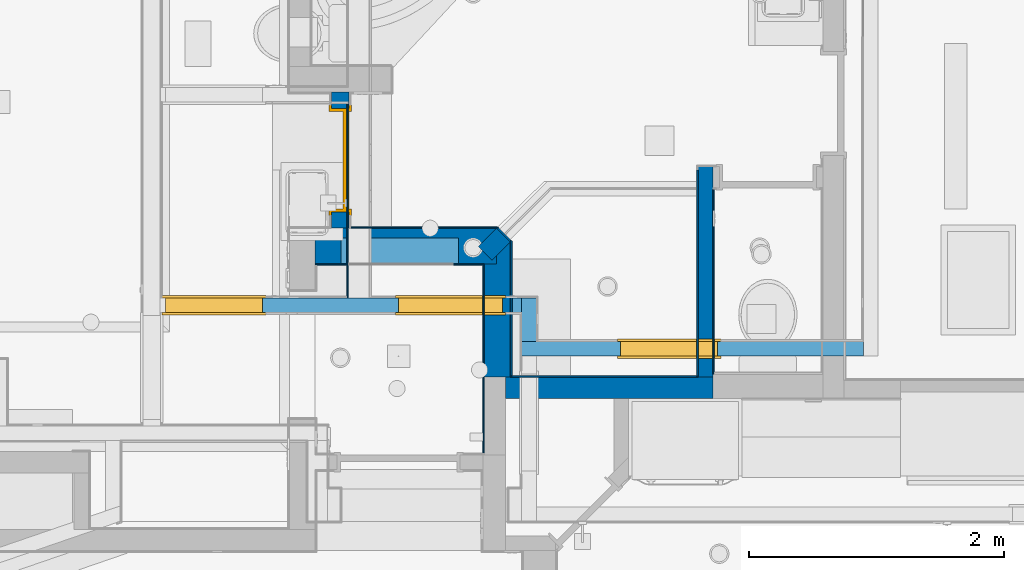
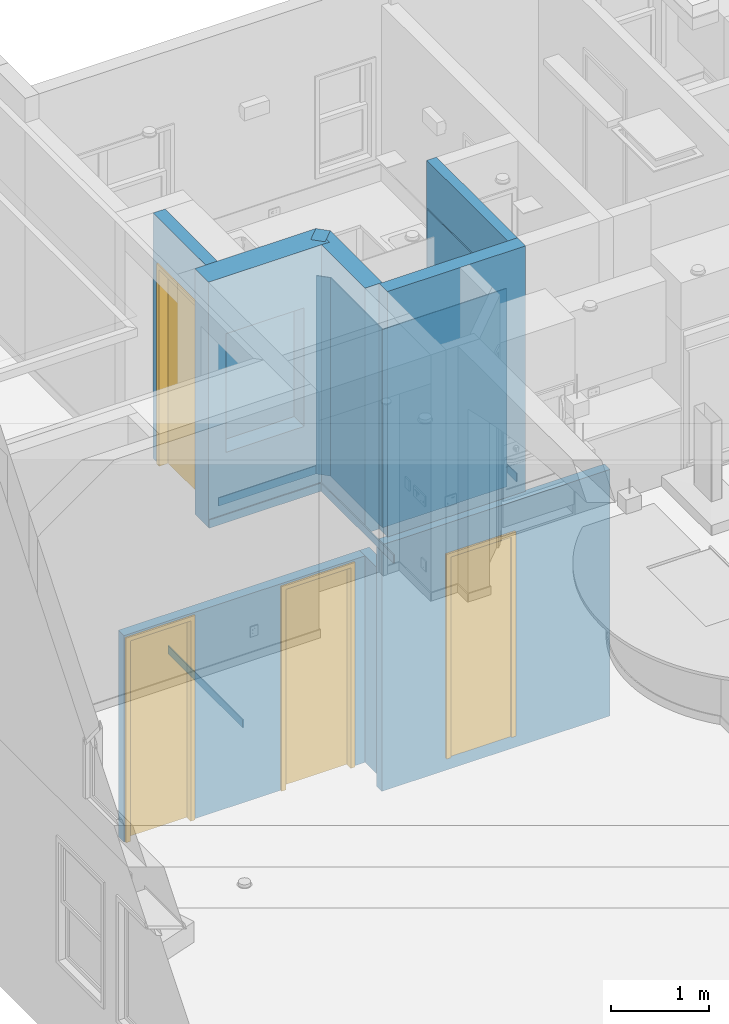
# One storey, part 8 of 60: 18 walls, 4 doors, 5 openings.
"""IFC2X3 building model written with IfcOpenShell, lengths in feet."""

from ifc_helpers import new_model, entity, si_unit, converted_unit, direction, frame, frame_2d, origin, origin_2d_with_axis, place, context, subcontext, project, spatial, polyline, rectangle, outline, extrude, clip, bounded_halfspace, source, transform, mapped, material, layer, layer_set, layer_usage, type_object, type_shapes, element, fill, save


model = new_model("IFC2X3")

# Units and contexts
model_context = context("Model", 3, precision=0.0001, world=origin(), true_north=direction((6.123031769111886e-17, 1.0)))
plan_context = context("Plan", 3, precision=0.0001, world=origin(), true_north=direction((6.123031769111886e-17, 1.0)))
body_context = subcontext(model_context, "Body", "Model", "MODEL_VIEW")
ifc_project = project(units=[converted_unit("LENGTHUNIT", "FOOT", entity("IfcLengthMeasure", 0.3048), si_unit("LENGTHUNIT", "METRE"), dimensions=[1, 0, 0, 0, 0, 0, 0]), converted_unit("AREAUNIT", "SQUARE FOOT", entity("IfcAreaMeasure", 0.09290304), si_unit("AREAUNIT", "SQUARE_METRE"), dimensions=[2, 0, 0, 0, 0, 0, 0]), converted_unit("PLANEANGLEUNIT", "DEGREE", entity("IfcPlaneAngleMeasure", 0.017453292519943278), si_unit("PLANEANGLEUNIT", "RADIAN"), dimensions=[0, 0, 0, 0, 0, 0, 0])], contexts=[model_context, plan_context])

# Site, building, storey
site_placement = place(None, origin())
site = spatial("IfcSite", under=ifc_project, at=site_placement, Name="Default", CompositionType="ELEMENT")
building_placement = place(site_placement, origin())
building = spatial("IfcBuilding", under=site, at=building_placement, CompositionType="ELEMENT")
storey_placement = place(building_placement, origin())
storey = spatial("IfcBuildingStorey", under=building, at=storey_placement, Name="First floor", CompositionType="ELEMENT", Elevation=0.0)

# Walls
ifc_material = material(Name="Default New Material")
ifc_layer_1 = layer(ifc_material, 0.5416666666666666)
ifc_layer_set_1 = layer_set([ifc_layer_1], Name="Basic Wall:Wall_6.5\"")
ifc_layer_usage_1 = layer_usage(ifc_layer_set_1, "AXIS2", "NEGATIVE", 0.2708333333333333)
wall_type_1 = type_object("IfcWallType", Name="Basic Wall:Wall_6.5\"", PredefinedType="STANDARD", material=ifc_layer_set_1)
wall_1_placement = place(storey_placement, frame((-0.7499999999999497, 33.22916666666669, 10.666666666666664)))
element("IfcWallStandardCase", 1, at=wall_1_placement, inside=storey, type_object=wall_type_1, material=ifc_layer_usage_1, Name="Basic Wall:Wall_6.5\"", ObjectType="Basic Wall:Wall_6.5\"", context=body_context, shape_type="SweptSolid", body=[
    extrude(rectangle(XDim=5.333333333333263, YDim=0.5416666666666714, at=frame_2d((2.6666666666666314, -5.273559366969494e-16), x_axis=(-1.0, 0.0))), origin(), (0.0, 0.0, 1.0), 10.0),
])
ifc_layer_2 = layer(ifc_material, 0.6666666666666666)
ifc_layer_set_2 = layer_set([ifc_layer_2], Name="Basic Wall:Wall_8\"")
ifc_layer_usage_2 = layer_usage(ifc_layer_set_2, "AXIS2", "POSITIVE", -0.33333333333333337)
wall_type_2 = type_object("IfcWallType", Name="Basic Wall:Wall_8\"", PredefinedType="STANDARD", material=ifc_layer_set_2)
wall_2_placement = place(storey_placement, frame((-1.2148689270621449, 37.09763107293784, 10.666666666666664), z_axis=(0.0, 0.0, 1.0), x_axis=(0.7071067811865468, -0.7071067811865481, 0.0)))
element("IfcWallStandardCase", 2, at=wall_2_placement, inside=storey, type_object=wall_type_2, material=ifc_layer_usage_2, Name="Basic Wall:Wall_8\"", ObjectType="Basic Wall:Wall_8\"", context=body_context, shape_type="SweptSolid", body=[
    extrude(rectangle(XDim=0.5008673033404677, YDim=0.666666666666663, at=frame_2d((0.25043365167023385, 2.498001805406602e-16), x_axis=(-1.0, 0.0))), origin(), (0.0, 0.0, 1.0), 10.0),
])
ifc_layer_usage_3 = layer_usage(ifc_layer_set_2, "AXIS2", "POSITIVE", -0.33333333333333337)
wall_3_placement = place(storey_placement, frame((-0.9583333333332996, 36.979166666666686, 10.666666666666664), z_axis=(0.0, 0.0, 1.0), x_axis=(0.0, -1.0, 0.0)))
element("IfcWallStandardCase", 3, at=wall_3_placement, inside=storey, type_object=wall_type_2, material=ifc_layer_usage_3, Name="Basic Wall:Wall_8\"", ObjectType="Basic Wall:Wall_8\"", context=body_context, shape_type="Clipping", body=[
    clip(clip(clip(extrude(rectangle(XDim=3.479166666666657, YDim=0.6666666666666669, at=frame_2d((1.7395833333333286, 0.0), x_axis=(-1.0, 0.0))), origin(), (0.0, 0.0, 1.0), 10.0), bounded_halfspace(frame((0.0, 0.33333333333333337, 10.0), z_axis=(0.7071067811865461, 0.707106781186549, 0.0), x_axis=(-0.707106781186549, 0.7071067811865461, 0.0)), True, frame((0.0, 0.33333333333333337, 10.0), z_axis=(0.7071067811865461, 0.707106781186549, 0.0), x_axis=(-0.707106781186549, 0.7071067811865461, 0.0)), polyline([(0.0, 0.0), (-0.5008673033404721, 0.0), (-0.5008673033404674, -10.0), (0.0, -10.0), (0.0, 0.0)]))), bounded_halfspace(frame((0.5625, -0.02083333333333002, 10.0), z_axis=(1.0, 0.0, 0.0), x_axis=(0.0, 1.0, 0.0)), True, frame((0.5625, -0.02083333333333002, 10.0), z_axis=(1.0, 0.0, 0.0), x_axis=(0.0, 1.0, 0.0)), polyline([(0.0, 0.0), (-0.31250000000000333, 0.0), (-0.31250000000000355, -10.0), (0.0, -10.0), (0.0, 0.0)]))), bounded_halfspace(frame((0.5625, -0.02083333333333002, 0.0), z_axis=(0.0, 1.0, 0.0), x_axis=(-1.0, 0.0, 0.0)), True, frame((0.5625, -0.02083333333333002, 0.0), z_axis=(0.0, 1.0, 0.0), x_axis=(-1.0, 0.0, 0.0)), polyline([(0.0, 0.0), (0.2083333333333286, 0.0), (0.2083333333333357, 10.0), (0.0, 10.0), (0.0, 0.0)]))),
])
ifc_layer_3 = layer(ifc_material, 0.375)
ifc_layer_set_3 = layer_set([ifc_layer_3], Name="Basic Wall:Wall_4.5\"")
ifc_layer_usage_4 = layer_usage(ifc_layer_set_3, "AXIS2", "POSITIVE", -0.1875)
wall_type_3 = type_object("IfcWallType", Name="Basic Wall:Wall_4.5\"", PredefinedType="STANDARD", material=ifc_layer_set_3)
wall_4_placement = place(storey_placement, frame((4.395833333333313, 33.50000000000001, 10.666666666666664), z_axis=(0.0, 0.0, 1.0), x_axis=(0.0, 1.0, 0.0)))
element("IfcWallStandardCase", 4, at=wall_4_placement, inside=storey, type_object=wall_type_3, material=ifc_layer_usage_4, Name="Basic Wall:Wall_4.5\"", ObjectType="Basic Wall:Wall_4.5\"", context=body_context, shape_type="SweptSolid", body=[
    extrude(rectangle(XDim=5.416321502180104, YDim=0.375, at=frame_2d((2.708160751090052, 0.0), x_axis=(-1.0, 0.0))), origin(), (0.0, 0.0, 1.0), 10.0),
])

# Wall, opening, door
ifc_layer_usage_5 = layer_usage(ifc_layer_set_3, "AXIS2", "NEGATIVE", 0.1875)
wall_5_placement = place(storey_placement, frame((8.458333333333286, 34.22916666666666, -0.5), z_axis=(0.0, 0.0, 1.0), x_axis=(-1.0, 0.0, 0.0)))
wall_5 = element("IfcWallStandardCase", 5, at=wall_5_placement, inside=storey, type_object=wall_type_3, material=ifc_layer_usage_5, Name="Basic Wall:Wall_4.5\"", ObjectType="Basic Wall:Wall_4.5\"", context=body_context, shape_type="SweptSolid", body=[
    extrude(rectangle(XDim=8.791666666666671, YDim=0.375, at=frame_2d((4.395833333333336, 0.0), x_axis=(-1.0, 0.0))), origin(), (0.0, 0.0, 1.0), 10.041666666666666),
])
opening_1_placement = place(wall_5_placement, frame((3.749999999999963, -0.1875000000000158, 0.5)))
opening_1 = element("IfcOpeningElement", 6, at=opening_1_placement, cuts=wall_5, Name="C_Single Door:2'-4\" X 8'-2\":1", ObjectType="Opening", context=body_context, shape_type="SweptSolid", body=[
    extrude(rectangle(XDim=2.4999999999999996, YDim=8.25, at=frame_2d((4.125, 1.25), x_axis=(0.0, -1.0))), frame((0.0, 0.0, 0.0), z_axis=(0.0, 1.0, 0.0), x_axis=(0.0, 0.0, 1.0)), (0.0, 0.0, 1.0), 0.375),
])
door_style_1 = type_object("IfcDoorStyle", Name="C_Single Door:2'-4\" X 8'-2\"", ConstructionType="NOTDEFINED", OperationType="SINGLE_SWING_LEFT", ParameterTakesPrecedence=False, Sizeable=False, material=ifc_material)
shared_shape_1 = source(origin(), body_context, "Body", "SweptSolid", [
    extrude(rectangle(XDim=0.16666666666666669, YDim=2.333333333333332, at=origin_2d_with_axis()), frame((1.2499999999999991, 0.08333333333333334, 0.0), z_axis=(0.0, 0.0, 1.0), x_axis=(0.0, 1.0, 0.0)), (0.0, 0.0, 1.0), 8.166666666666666),
    extrude(outline(polyline([(-4.041666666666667, 1.1666666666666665), (4.125000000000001, 1.1666666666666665), (4.125000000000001, 1.3333333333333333), (-4.208333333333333, 1.3333333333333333), (-4.208333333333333, -1.3333333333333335), (4.124999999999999, -1.3333333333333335), (4.124999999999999, -1.1666666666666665), (-4.041666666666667, -1.1666666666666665), (-4.041666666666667, 1.1666666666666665)])), frame((1.2499999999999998, -0.0625, 4.124999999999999), z_axis=(0.0, 1.0, 0.0), x_axis=(0.0, 0.0, -1.0)), (0.0, 0.0, 1.0), 0.0625),
    extrude(outline(polyline([(-4.041666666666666, 1.1666666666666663), (4.125, 1.1666666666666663), (4.125, 1.3333333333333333), (-4.208333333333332, 1.3333333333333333), (-4.208333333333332, -1.3333333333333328), (4.125, -1.3333333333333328), (4.125, -1.1666666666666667), (-4.041666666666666, -1.1666666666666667), (-4.041666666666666, 1.1666666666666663)])), frame((1.2499999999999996, 0.375, 4.125), z_axis=(0.0, 1.0, 0.0), x_axis=(0.0, 0.0, -1.0)), (0.0, 0.0, 1.0), 0.0625),
    extrude(outline(polyline([(-4.104166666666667, -1.249999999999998), (4.145833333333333, -1.249999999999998), (4.145833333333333, 1.249999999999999), (-4.104166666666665, 1.2499999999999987), (-4.104166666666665, 1.1666666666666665), (4.062500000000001, 1.1666666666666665), (4.062500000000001, -1.1666666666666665), (-4.104166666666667, -1.1666666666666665), (-4.104166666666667, -1.249999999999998)])), frame((1.2499999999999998, 0.0, 4.104166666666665), z_axis=(0.0, 1.0, 0.0), x_axis=(0.0, 0.0, 1.0)), (0.0, 0.0, 1.0), 0.375),
])
type_shapes(door_style_1, [shared_shape_1])
door_1_placement = place(opening_1_placement, frame((2.5000000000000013, 0.3749999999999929, 0.0), z_axis=(0.0, 0.0, 1.0), x_axis=(-1.0, 0.0, 0.0)))
door_1 = element("IfcDoor", 7, at=door_1_placement, inside=storey, type_object=door_style_1, material=ifc_material, Name="C_Single Door:2'-4\" X 8'-2\"", ObjectType="C_Single Door:2'-4\" X 8'-2\"", OverallHeight=8.25, OverallWidth=2.5000000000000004, context=body_context, shape_type="MappedRepresentation", body=[
    mapped(shared_shape_1, transform((0.0, 0.0, 0.0), scale=1.0)),
])
fill(opening_1, door_1)

# Wall
ifc_layer_usage_6 = layer_usage(ifc_layer_set_3, "AXIS2", "NEGATIVE", 0.1875)
wall_6_placement = place(storey_placement, frame((-0.14583333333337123, 34.416666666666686, 0.0), z_axis=(0.0, 0.0, 1.0), x_axis=(0.0, 1.0, 0.0)))
element("IfcWallStandardCase", 8, at=wall_6_placement, inside=storey, type_object=wall_type_3, material=ifc_layer_usage_6, Name="Basic Wall:Wall_4.5\"", ObjectType="Basic Wall:Wall_4.5\"", context=body_context, shape_type="SweptSolid", body=[
    extrude(rectangle(XDim=1.1249999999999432, YDim=0.375, at=frame_2d((0.5624999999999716, 0.0), x_axis=(-1.0, 0.0))), origin(), (0.0, 0.0, 1.0), 8.416666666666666),
])

# Wall, openings, doors
ifc_layer_usage_7 = layer_usage(ifc_layer_set_3, "AXIS2", "NEGATIVE", 0.1875)
wall_7_placement = place(storey_placement, frame((-0.3333333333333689, 35.35416666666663, 0.0), z_axis=(0.0, 0.0, 1.0), x_axis=(-1.0, 0.0, 0.0)))
wall_7 = element("IfcWallStandardCase", 9, at=wall_7_placement, inside=storey, type_object=wall_type_3, material=ifc_layer_usage_7, Name="Basic Wall:Wall_4.5\"", ObjectType="Basic Wall:Wall_4.5\"", context=body_context, shape_type="SweptSolid", body=[
    extrude(rectangle(XDim=9.291666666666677, YDim=0.375, at=frame_2d((4.64583333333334, -5.551115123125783e-16), x_axis=(1.0, 0.0))), origin(), (0.0, 0.0, 1.0), 8.416666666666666),
])
opening_2_placement = place(wall_7_placement, frame((3.1666666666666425, 0.18749999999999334, 0.0)))
opening_2 = element("IfcOpeningElement", 10, at=opening_2_placement, cuts=wall_7, Name="C_Single Door:2'-6\" X 8'-2\":1", ObjectType="Opening", context=body_context, shape_type="SweptSolid", body=[
    extrude(rectangle(XDim=2.666666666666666, YDim=8.25, at=frame_2d((4.125, 1.333333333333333), x_axis=(0.0, 1.0))), frame((0.0, 0.0, 0.0), z_axis=(0.0, -1.0, 0.0), x_axis=(0.0, 0.0, 1.0)), (0.0, 0.0, 1.0), 0.375),
])
opening_3_placement = place(wall_7_placement, frame((9.16666666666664, 0.18749999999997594, 0.0)))
opening_3 = element("IfcOpeningElement", 11, at=opening_3_placement, cuts=wall_7, Name="C_Single Door:2'-4\" X 8'-2\":1", ObjectType="Opening", context=body_context, shape_type="SweptSolid", body=[
    extrude(rectangle(XDim=2.4999999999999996, YDim=8.25, at=frame_2d((4.125, 1.2499999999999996), x_axis=(0.0, 1.0))), frame((0.0, 0.0, 0.0), z_axis=(0.0, -1.0, 0.0), x_axis=(0.0, 0.0, 1.0)), (0.0, 0.0, 1.0), 0.375),
])
door_style_2 = type_object("IfcDoorStyle", Name="C_Single Door:2'-4\" X 8'-2\"", ConstructionType="NOTDEFINED", OperationType="SINGLE_SWING_RIGHT", ParameterTakesPrecedence=False, Sizeable=False, material=ifc_material)
shared_shape_2 = source(origin(), body_context, "Body", "SweptSolid", [
    extrude(rectangle(XDim=2.333333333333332, YDim=0.16666666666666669, at=origin_2d_with_axis()), frame((1.2500000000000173, 0.08333333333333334, 0.0)), (0.0, 0.0, 1.0), 8.166666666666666),
    extrude(outline(polyline([(-4.041666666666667, 1.1666666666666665), (4.125000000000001, 1.1666666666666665), (4.125000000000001, 1.3333333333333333), (-4.208333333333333, 1.3333333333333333), (-4.208333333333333, -1.3333333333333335), (4.124999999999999, -1.3333333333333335), (4.124999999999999, -1.1666666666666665), (-4.041666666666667, -1.1666666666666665), (-4.041666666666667, 1.1666666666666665)])), frame((1.2500000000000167, 0.0, 4.124999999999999), z_axis=(0.0, -1.0, 0.0), x_axis=(0.0, 0.0, -1.0)), (0.0, 0.0, 1.0), 0.0625),
    extrude(outline(polyline([(-4.041666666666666, 1.1666666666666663), (4.125, 1.1666666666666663), (4.125, 1.3333333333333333), (-4.208333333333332, 1.3333333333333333), (-4.208333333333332, -1.3333333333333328), (4.125, -1.3333333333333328), (4.125, -1.1666666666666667), (-4.041666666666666, -1.1666666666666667), (-4.041666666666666, 1.1666666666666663)])), frame((1.2500000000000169, 0.4375, 4.125), z_axis=(0.0, -1.0, 0.0), x_axis=(0.0, 0.0, -1.0)), (0.0, 0.0, 1.0), 0.0625),
    extrude(outline(polyline([(1.1666666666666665, -4.104166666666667), (1.249999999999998, -4.104166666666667), (1.2499999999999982, 4.145833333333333), (-1.2499999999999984, 4.145833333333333), (-1.2499999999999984, -4.104166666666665), (-1.1666666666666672, -4.104166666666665), (-1.1666666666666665, 4.062500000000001), (1.1666666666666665, 4.062500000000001), (1.1666666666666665, -4.104166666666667)])), frame((1.2500000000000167, 0.375, 4.104166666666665), z_axis=(0.0, -1.0, 0.0), x_axis=(1.0, 0.0, 0.0)), (0.0, 0.0, 1.0), 0.375),
])
type_shapes(door_style_2, [shared_shape_2])
door_2_placement = place(opening_3_placement, frame((-2.500000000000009, -0.3749999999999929, 0.0)))
door_2 = element("IfcDoor", 12, at=door_2_placement, inside=storey, type_object=door_style_2, material=ifc_material, Name="C_Single Door:2'-4\" X 8'-2\"", ObjectType="C_Single Door:2'-4\" X 8'-2\"", OverallHeight=8.25, OverallWidth=2.500000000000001, context=body_context, shape_type="MappedRepresentation", body=[
    mapped(shared_shape_2, transform((0.0, 0.0, 0.0), scale=1.0)),
])
fill(opening_3, door_2)
door_style_3 = type_object("IfcDoorStyle", Name="C_Single Door:2'-6\" X 8'-2\"", ConstructionType="NOTDEFINED", OperationType="SINGLE_SWING_RIGHT", ParameterTakesPrecedence=False, Sizeable=False, material=ifc_material)
shared_shape_3 = source(origin(), body_context, "Body", "SweptSolid", [
    extrude(rectangle(XDim=2.499999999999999, YDim=0.16666666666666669, at=origin_2d_with_axis()), frame((1.3333333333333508, 0.08333333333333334, 0.0)), (0.0, 0.0, 1.0), 8.166666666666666),
    extrude(outline(polyline([(-4.041666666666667, 1.2499999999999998), (4.125000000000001, 1.2499999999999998), (4.125000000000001, 1.4166666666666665), (-4.208333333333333, 1.4166666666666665), (-4.208333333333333, -1.4166666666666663), (4.124999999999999, -1.4166666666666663), (4.124999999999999, -1.2499999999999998), (-4.041666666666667, -1.2499999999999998), (-4.041666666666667, 1.2499999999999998)])), frame((1.33333333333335, 0.0, 4.124999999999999), z_axis=(0.0, -1.0, 0.0), x_axis=(0.0, 0.0, -1.0)), (0.0, 0.0, 1.0), 0.0625),
    extrude(outline(polyline([(-4.041666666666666, 1.2499999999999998), (4.125, 1.2499999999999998), (4.125, 1.4166666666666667), (-4.208333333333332, 1.4166666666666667), (-4.208333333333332, -1.4166666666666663), (4.125, -1.4166666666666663), (4.125, -1.2500000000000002), (-4.041666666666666, -1.2500000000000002), (-4.041666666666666, 1.2499999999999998)])), frame((1.3333333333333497, 0.4375, 4.125), z_axis=(0.0, -1.0, 0.0), x_axis=(0.0, 0.0, -1.0)), (0.0, 0.0, 1.0), 0.0625),
    extrude(outline(polyline([(1.2499999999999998, -4.104166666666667), (1.3333333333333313, -4.104166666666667), (1.3333333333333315, 4.145833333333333), (-1.3333333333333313, 4.145833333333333), (-1.3333333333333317, -4.104166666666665), (-1.25, -4.104166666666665), (-1.2499999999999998, 4.062500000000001), (1.2499999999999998, 4.062500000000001), (1.2499999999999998, -4.104166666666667)])), frame((1.33333333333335, 0.375, 4.104166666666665), z_axis=(0.0, -1.0, 0.0), x_axis=(1.0, 0.0, 0.0)), (0.0, 0.0, 1.0), 0.375),
])
type_shapes(door_style_3, [shared_shape_3])
door_3_placement = place(opening_2_placement, frame((-2.666666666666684, -0.3749999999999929, 0.0)))
door_3 = element("IfcDoor", 13, at=door_3_placement, inside=storey, type_object=door_style_3, material=ifc_material, Name="C_Single Door:2'-6\" X 8'-2\"", ObjectType="C_Single Door:2'-6\" X 8'-2\"", OverallHeight=8.25, OverallWidth=2.666666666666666, context=body_context, shape_type="MappedRepresentation", body=[
    mapped(shared_shape_3, transform((0.0, 0.0, 0.0), scale=1.0)),
])
fill(opening_2, door_3)

# Wall, opening, door
ifc_layer_4 = layer(ifc_material, 0.45833333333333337)
ifc_layer_set_4 = layer_set([ifc_layer_4], Name="Basic Wall:Wall_5.5\"")
ifc_layer_usage_8 = layer_usage(ifc_layer_set_4, "AXIS2", "POSITIVE", -0.22916666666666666)
wall_type_4 = type_object("IfcWallType", Name="Basic Wall:Wall_5.5\"", PredefinedType="STANDARD", material=ifc_layer_set_4)
wall_8_placement = place(storey_placement, frame((-5.0, 37.33333333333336, 10.666666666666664), z_axis=(0.0, 0.0, 1.0), x_axis=(0.0, 1.0, 0.0)))
wall_8 = element("IfcWallStandardCase", 14, at=wall_8_placement, inside=storey, type_object=wall_type_4, material=ifc_layer_usage_8, Name="Basic Wall:Wall_5.5\"", ObjectType="Basic Wall:Wall_5.5\"", context=body_context, shape_type="SweptSolid", body=[
    extrude(rectangle(XDim=3.499654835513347, YDim=0.4583333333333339, at=frame_2d((1.7498274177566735, 0.0), x_axis=(-1.0, 0.0))), origin(), (0.0, 0.0, 1.0), 10.0),
])
opening_4_placement = place(wall_8_placement, frame((3.0829881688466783, 0.2291666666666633, 0.0)))
opening_4 = element("IfcOpeningElement", 15, at=opening_4_placement, cuts=wall_8, Name="C_Single Door:2'-6\" X 8'-0\":1", ObjectType="Opening", context=body_context, shape_type="SweptSolid", body=[
    extrude(rectangle(XDim=2.666666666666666, YDim=8.083333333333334, at=frame_2d((4.041666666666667, 1.333333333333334), x_axis=(0.0, -1.0))), frame((0.0, 0.0, 0.0), z_axis=(0.0, -1.0, 0.0), x_axis=(0.0, 0.0, 1.0)), (0.0, 0.0, 1.0), 0.4583333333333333),
])
door_style_4 = type_object("IfcDoorStyle", Name="C_Single Door:2'-6\" X 8'-0\"", ConstructionType="NOTDEFINED", OperationType="SINGLE_SWING_LEFT", ParameterTakesPrecedence=False, Sizeable=False, material=ifc_material)
shared_shape_4 = source(origin(), body_context, "Body", "SweptSolid", [
    extrude(rectangle(XDim=0.16666666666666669, YDim=2.499999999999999, at=origin_2d_with_axis()), frame((1.3333333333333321, 0.08333333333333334, 0.0), z_axis=(0.0, 0.0, 1.0), x_axis=(0.0, 1.0, 0.0)), (0.0, 0.0, 1.0), 8.0),
    extrude(outline(polyline([(-3.958333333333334, 1.2499999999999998), (4.041666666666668, 1.2499999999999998), (4.041666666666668, 1.4166666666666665), (-4.125000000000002, 1.4166666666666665), (-4.125000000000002, -1.4166666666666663), (4.041666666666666, -1.4166666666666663), (4.041666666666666, -1.2499999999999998), (-3.958333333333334, -1.2499999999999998), (-3.958333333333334, 1.2499999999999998)])), frame((1.333333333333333, -0.06249999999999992, 4.041666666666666), z_axis=(0.0, 1.0, 0.0), x_axis=(0.0, 0.0, -1.0)), (0.0, 0.0, 1.0), 0.06249999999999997),
    extrude(outline(polyline([(-3.958333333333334, 1.2499999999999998), (4.041666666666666, 1.2499999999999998), (4.041666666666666, 1.4166666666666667), (-4.125, 1.4166666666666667), (-4.125, -1.4166666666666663), (4.041666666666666, -1.4166666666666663), (4.041666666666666, -1.2500000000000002), (-3.958333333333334, -1.2500000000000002), (-3.958333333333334, 1.2499999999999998)])), frame((1.3333333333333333, 0.45833333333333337, 4.041666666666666), z_axis=(0.0, 1.0, 0.0), x_axis=(0.0, 0.0, -1.0)), (0.0, 0.0, 1.0), 0.06249999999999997),
    extrude(outline(polyline([(-4.020833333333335, -1.3333333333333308), (4.062499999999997, -1.3333333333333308), (4.062499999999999, 1.3333333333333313), (-4.020833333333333, 1.3333333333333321), (-4.020833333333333, 1.2499999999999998), (3.979166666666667, 1.2499999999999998), (3.979166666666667, -1.2499999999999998), (-4.020833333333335, -1.2499999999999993), (-4.020833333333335, -1.3333333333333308)])), frame((1.3333333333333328, 0.0, 4.020833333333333), z_axis=(0.0, 1.0, 0.0), x_axis=(0.0, 0.0, 1.0)), (0.0, 0.0, 1.0), 0.45833333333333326),
])
type_shapes(door_style_4, [shared_shape_4])
door_4_placement = place(opening_4_placement, frame((-2.6666666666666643, -0.4583333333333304, 0.0)))
door_4 = element("IfcDoor", 16, at=door_4_placement, inside=storey, type_object=door_style_4, material=ifc_material, Name="C_Single Door:2'-6\" X 8'-0\"", ObjectType="C_Single Door:2'-6\" X 8'-0\"", OverallHeight=8.083333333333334, OverallWidth=2.6666666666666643, context=body_context, shape_type="MappedRepresentation", body=[
    mapped(shared_shape_4, transform((0.0, 0.0, 0.0), scale=1.0)),
])
fill(opening_4, door_4)

# Wall, opening
ifc_layer_5 = layer(ifc_material, 0.9166666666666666)
ifc_layer_set_5 = layer_set([ifc_layer_5], Name="Basic Wall:Wall_11\"")
ifc_layer_usage_9 = layer_usage(ifc_layer_set_5, "AXIS2", "NEGATIVE", 0.45833333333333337)
wall_type_5 = type_object("IfcWallType", Name="Basic Wall:Wall_11\"", PredefinedType="STANDARD", material=ifc_layer_set_5)
wall_9_placement = place(storey_placement, frame((-5.645833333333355, 36.87500000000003, 10.666666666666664)))
wall_9 = element("IfcWallStandardCase", 17, at=wall_9_placement, inside=storey, type_object=wall_type_5, material=ifc_layer_usage_9, Name="Basic Wall:Wall_11\"", ObjectType="Basic Wall:Wall_11\"", context=body_context, shape_type="Clipping", body=[
    clip(extrude(rectangle(XDim=4.6666666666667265, YDim=0.9166666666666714, at=frame_2d((2.3333333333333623, -4.718447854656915e-16), x_axis=(-1.0, 0.0))), origin(), (0.0, 0.0, 1.0), 10.0), bounded_halfspace(frame((4.549428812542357, -0.3672378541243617, 10.0), z_axis=(-0.7071067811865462, -0.7071067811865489, 0.0), x_axis=(0.7071067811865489, -0.7071067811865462, 0.0)), True, frame((4.549428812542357, -0.3672378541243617, 10.0), z_axis=(-0.7071067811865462, -0.7071067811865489, 0.0), x_axis=(0.7071067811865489, -0.7071067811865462, 0.0)), polyline([(0.0, 0.0), (-0.5008673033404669, 0.0), (-0.5008673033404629, -10.0), (0.0, -10.0), (0.0, 0.0)]))),
])
opening_5_placement = place(wall_9_placement, frame((5.64583333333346, -36.875000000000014, -10.666666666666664)))
element("IfcOpeningElement", 18, at=opening_5_placement, cuts=wall_9, Name="Basic Wall:Wall_11\"", ObjectType="Recess", context=body_context, shape_type="SweptSolid", body=[
    extrude(rectangle(XDim=4.833333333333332, YDim=3.0208333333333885, at=frame_2d((-1.7763568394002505e-15, 2.220446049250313e-16), x_axis=(1.0, 0.0))), frame((-3.468750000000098, 36.41666666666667, 15.916666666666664), z_axis=(0.0, 1.0, 0.0), x_axis=(0.0, 0.0, -1.0)), (0.0, 0.0, 1.0), 0.6666666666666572),
])

# Walls
ifc_layer_6 = layer(ifc_material, 0.041666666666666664)
ifc_layer_set_6 = layer_set([ifc_layer_6], Name="Basic Wall:Wall Border_T1")
ifc_layer_usage_10 = layer_usage(ifc_layer_set_6, "AXIS2", "NEGATIVE", 0.020833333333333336)
wall_type_6 = type_object("IfcWallType", Name="Basic Wall:Wall Border_T1", PredefinedType="STANDARD", material=ifc_layer_set_6)
wall_10_placement = place(storey_placement, frame((-1.3124999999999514, 31.541666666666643, 10.666666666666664), z_axis=(0.0, 0.0, 1.0), x_axis=(0.0, 1.0, 0.0)))
element("IfcWallStandardCase", 19, at=wall_10_placement, inside=storey, type_object=wall_type_6, material=ifc_layer_usage_10, Name="Basic Wall:Wall Border_T1", ObjectType="Basic Wall:Wall Border_T1", context=body_context, shape_type="SweptSolid", body=[
    extrude(rectangle(XDim=4.874999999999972, YDim=0.04166666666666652, at=frame_2d((2.437499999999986, 0.0), x_axis=(-1.0, 0.0))), origin(), (0.0, 0.0, 1.0), 0.3333333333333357),
])
ifc_layer_usage_11 = layer_usage(ifc_layer_set_6, "AXIS2", "NEGATIVE", 0.020833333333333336)
wall_11_placement = place(storey_placement, frame((-1.3333333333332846, 36.395833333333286, 10.666666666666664), z_axis=(0.0, 0.0, 1.0), x_axis=(-1.0, 0.0, 0.0)))
element("IfcWallStandardCase", 20, at=wall_11_placement, inside=storey, type_object=wall_type_6, material=ifc_layer_usage_11, Name="Basic Wall:Wall Border_T1", ObjectType="Basic Wall:Wall Border_T1", context=body_context, shape_type="SweptSolid", body=[
    extrude(rectangle(XDim=4.312500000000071, YDim=0.041666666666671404, at=frame_2d((2.1562500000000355, -6.800116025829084e-16), x_axis=(-1.0, 0.0))), origin(), (0.0, 0.0, 1.0), 0.3333333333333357),
])
ifc_layer_usage_12 = layer_usage(ifc_layer_set_6, "AXIS2", "NEGATIVE", 0.020833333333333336)
wall_12_placement = place(storey_placement, frame((-4.729166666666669, 37.35416666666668, 10.666666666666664)))
element("IfcWallStandardCase", 21, at=wall_12_placement, inside=storey, type_object=wall_type_6, material=ifc_layer_usage_12, Name="Basic Wall:Wall Border_T1", ObjectType="Basic Wall:Wall Border_T1", context=body_context, shape_type="SweptSolid", body=[
    extrude(outline(polyline([(3.808925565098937, -0.020833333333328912), (3.7672588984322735, 0.02083333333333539), (0.0, 0.020833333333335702), (0.0, -0.020833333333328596), (3.7500000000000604, -0.02083333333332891), (3.808925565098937, -0.020833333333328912)])), origin(), (0.0, 0.0, 1.0), 0.3333333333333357),
])
ifc_layer_usage_13 = layer_usage(ifc_layer_set_6, "AXIS2", "NEGATIVE", 0.020833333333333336)
wall_13_placement = place(storey_placement, frame((4.1874999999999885, 38.83333333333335, 10.666666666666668), z_axis=(0.0, 0.0, 1.0), x_axis=(0.0, -1.0, 0.0)))
element("IfcWallStandardCase", 22, at=wall_13_placement, inside=storey, type_object=wall_type_6, material=ifc_layer_usage_13, Name="Basic Wall:Wall Border_T1", ObjectType="Basic Wall:Wall Border_T1", context=body_context, shape_type="SweptSolid", body=[
    extrude(rectangle(XDim=5.333333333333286, YDim=0.041666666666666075, at=frame_2d((2.666666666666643, -2.0296264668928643e-16), x_axis=(-1.0, 0.0))), origin(), (0.0, 0.0, 1.0), 8.083333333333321),
])
ifc_layer_usage_14 = layer_usage(ifc_layer_set_6, "AXIS2", "NEGATIVE", 0.020833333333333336)
wall_14_placement = place(storey_placement, frame((4.166666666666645, 33.5208333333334, 10.666666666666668), z_axis=(0.0, 0.0, 1.0), x_axis=(-1.0, 0.0, 0.0)))
element("IfcWallStandardCase", 23, at=wall_14_placement, inside=storey, type_object=wall_type_6, material=ifc_layer_usage_14, Name="Basic Wall:Wall Border_T1", ObjectType="Basic Wall:Wall Border_T1", context=body_context, shape_type="SweptSolid", body=[
    extrude(rectangle(XDim=4.791666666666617, YDim=0.041666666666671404, at=frame_2d((2.3958333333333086, -2.4685115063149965e-15), x_axis=(-1.0, 0.0))), origin(), (0.0, 0.0, 1.0), 8.083333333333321),
])
ifc_layer_usage_15 = layer_usage(ifc_layer_set_6, "AXIS2", "NEGATIVE", 0.020833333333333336)
wall_15_placement = place(storey_placement, frame((-0.6041666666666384, 33.54166666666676, 10.666666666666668), z_axis=(0.0, 0.0, 1.0), x_axis=(0.0, 1.0, 0.0)))
element("IfcWallStandardCase", 24, at=wall_15_placement, inside=storey, type_object=wall_type_6, material=ifc_layer_usage_15, Name="Basic Wall:Wall Border_T1", ObjectType="Basic Wall:Wall Border_T1", context=body_context, shape_type="SweptSolid", body=[
    extrude(outline(polyline([(3.4547588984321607, -0.0208333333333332), (3.496425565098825, 0.020833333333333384), (3.4374999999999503, 0.020833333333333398), (0.0, 0.02083333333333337), (0.0, -0.02083333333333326), (3.4547588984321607, -0.0208333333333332)])), origin(), (0.0, 0.0, 1.0), 8.083333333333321),
])
ifc_layer_usage_16 = layer_usage(ifc_layer_set_6, "AXIS2", "NEGATIVE", 0.020833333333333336)
wall_16_placement = place(storey_placement, frame((-0.6102686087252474, 36.99389805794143, 10.666666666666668), z_axis=(0.0, 0.0, 1.0), x_axis=(-0.707106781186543, 0.7071067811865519, 0.0)))
element("IfcWallStandardCase", 25, at=wall_16_placement, inside=storey, type_object=wall_type_6, material=ifc_layer_usage_16, Name="Basic Wall:Wall Border_T1", ObjectType="Basic Wall:Wall Border_T1", context=body_context, shape_type="SweptSolid", body=[
    extrude(outline(polyline([(0.45920063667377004, -0.020833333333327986), (0.5008673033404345, 0.020833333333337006), (0.0, 0.02083333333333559), (0.04166666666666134, -0.02083333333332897), (0.45920063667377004, -0.020833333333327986)])), origin(), (0.0, 0.0, 1.0), 8.083333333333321),
])
ifc_layer_usage_17 = layer_usage(ifc_layer_set_6, "AXIS2", "NEGATIVE", 0.020833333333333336)
wall_17_placement = place(storey_placement, frame((4.604166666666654, 38.33298816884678, 10.666666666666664), z_axis=(0.0, 0.0, 1.0), x_axis=(0.0, -1.0, 0.0)))
element("IfcWallStandardCase", 26, at=wall_17_placement, inside=storey, type_object=wall_type_6, material=ifc_layer_usage_17, Name="Basic Wall:Wall Border_T1", ObjectType="Basic Wall:Wall Border_T1", context=body_context, shape_type="SweptSolid", body=[
    extrude(rectangle(XDim=4.749654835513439, YDim=0.041666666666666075, at=frame_2d((2.3748274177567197, 0.0), x_axis=(-1.0, 0.0))), origin(), (0.0, 0.0, 1.0), 0.3333333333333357),
])
ifc_layer_usage_18 = layer_usage(ifc_layer_set_6, "AXIS2", "NEGATIVE", 0.020833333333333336)
wall_18_placement = place(storey_placement, frame((-4.812500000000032, 40.54166666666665, 2.75), z_axis=(0.0, 0.0, 1.0), x_axis=(0.0, -1.0, 0.0)))
element("IfcWallStandardCase", 27, at=wall_18_placement, inside=storey, type_object=wall_type_6, material=ifc_layer_usage_18, Name="Basic Wall:Wall Border_T1", ObjectType="Basic Wall:Wall Border_T1", context=body_context, shape_type="SweptSolid", body=[
    extrude(rectangle(XDim=5.000000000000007, YDim=0.041666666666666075, at=frame_2d((2.5000000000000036, 0.0), x_axis=(-1.0, 0.0))), origin(), (0.0, 0.0, 1.0), 0.3333333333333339),
])

save(model, "model.ifc")
